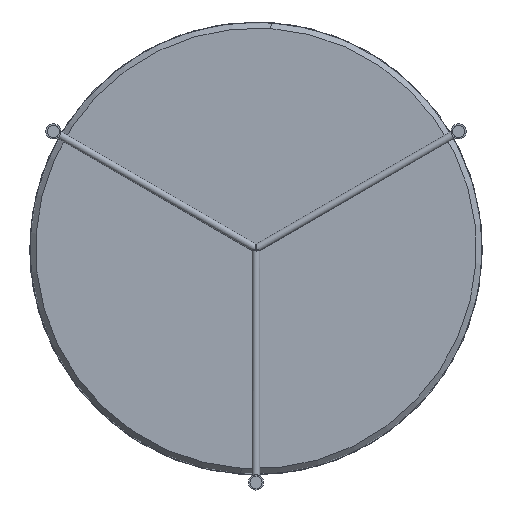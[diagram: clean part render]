
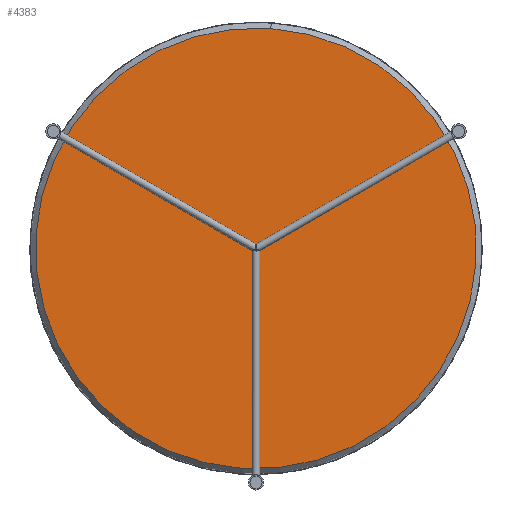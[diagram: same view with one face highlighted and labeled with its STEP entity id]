
A CAD part, front view. The second image highlights one B-rep face of the part: STEP entity #4383.
In plain terms, the highlighted planar face has unit normal (0, -1, 0).
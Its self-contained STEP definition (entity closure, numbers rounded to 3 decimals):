
#157 = ORIENTED_EDGE ( 'NONE', *, *, #308, .T. ) ;
#308 = EDGE_CURVE ( 'NONE', #2639, #3838, #1128, .T. ) ;
#343 = EDGE_LOOP ( 'NONE', ( #1842, #157 ) ) ;
#462 = CARTESIAN_POINT ( 'NONE',  ( 0., 0., 0. ) ) ;
#655 = CARTESIAN_POINT ( 'NONE',  ( 0., 0., 292. ) ) ;
#674 = AXIS2_PLACEMENT_3D ( 'NONE', #892, #1342, #4647 ) ;
#794 = PLANE ( 'NONE',  #1364 ) ;
#892 = CARTESIAN_POINT ( 'NONE',  ( 0., 0., 0. ) ) ;
#1053 = CIRCLE ( 'NONE', #3862, 292. ) ;
#1118 = DIRECTION ( 'NONE',  ( 0., -1., 0. ) ) ;
#1128 = CIRCLE ( 'NONE', #674, 292. ) ;
#1267 = CARTESIAN_POINT ( 'NONE',  ( 0., 0., -292. ) ) ;
#1342 = DIRECTION ( 'NONE',  ( 0., -1., 0. ) ) ;
#1364 = AXIS2_PLACEMENT_3D ( 'NONE', #2606, #1118, #4694 ) ;
#1714 = EDGE_CURVE ( 'NONE', #3838, #2639, #1053, .T. ) ;
#1842 = ORIENTED_EDGE ( 'NONE', *, *, #1714, .T. ) ;
#2606 = CARTESIAN_POINT ( 'NONE',  ( 0., 0., 0. ) ) ;
#2639 = VERTEX_POINT ( 'NONE', #1267 ) ;
#3219 = DIRECTION ( 'NONE',  ( 0., -1., 0. ) ) ;
#3838 = VERTEX_POINT ( 'NONE', #655 ) ;
#3861 = DIRECTION ( 'NONE',  ( 0., 0., -1. ) ) ;
#3862 = AXIS2_PLACEMENT_3D ( 'NONE', #462, #3219, #3861 ) ;
#4366 = FACE_OUTER_BOUND ( 'NONE', #343, .T. ) ;
#4383 = ADVANCED_FACE ( 'NONE', ( #4366 ), #794, .T. ) ;
#4647 = DIRECTION ( 'NONE',  ( 0., 0., -1. ) ) ;
#4694 = DIRECTION ( 'NONE',  ( 0., 0., -1. ) ) ;
